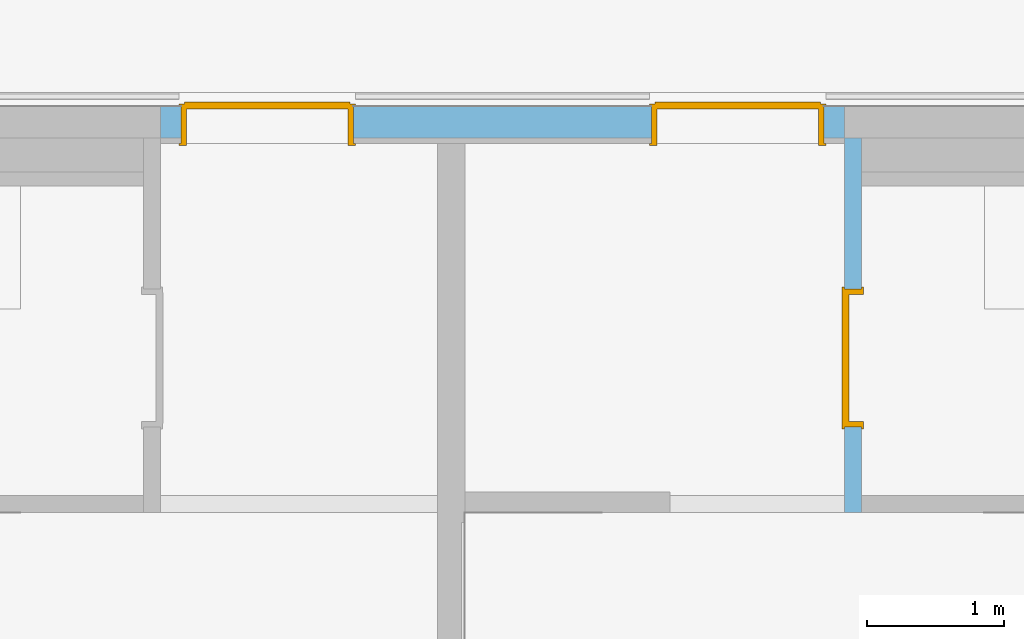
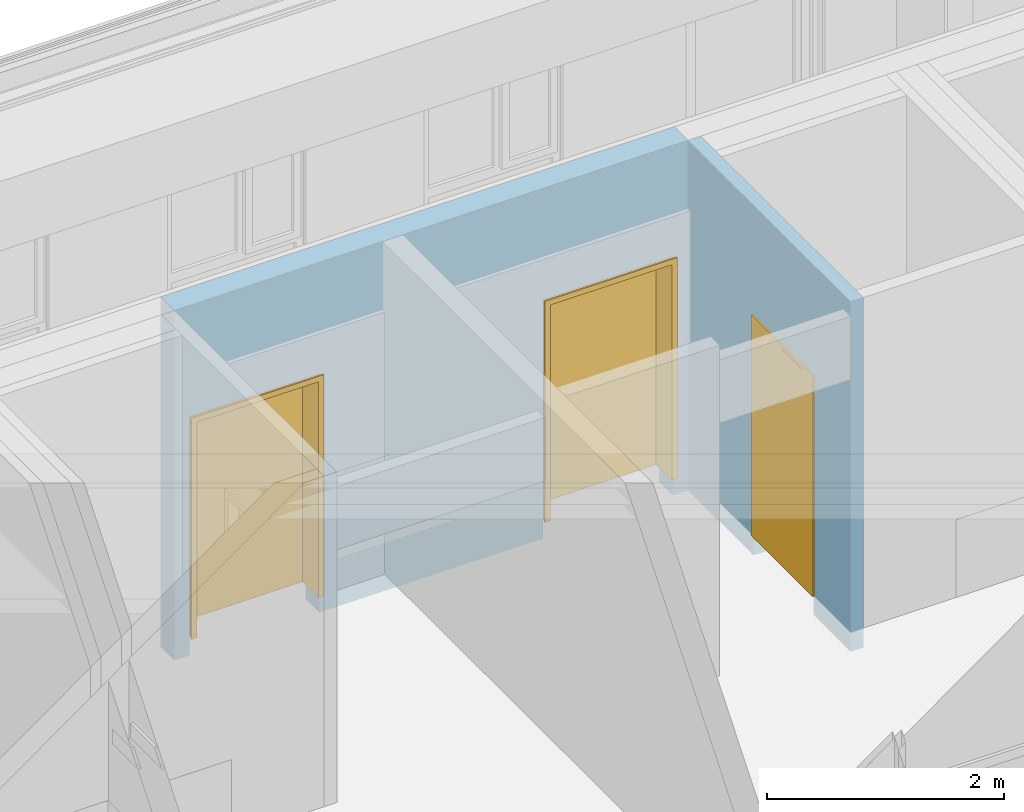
# One storey, part 72 of 207: 3 doors, 3 openings, plus 2 elements that do not belong to this part.
"""IFC4 building model written with IfcOpenShell, lengths in metres."""

from ifc_helpers import new_model, entity, si_unit, converted_unit, derived_unit, frame, frame_2d, origin, origin_with_axes, place, context, subcontext, project, spatial, polyline, rectangle, outline, extrude, faceted_brep, source, transform, mapped, material, type_object, element, fill, save


model = new_model("IFC4")

# Units and contexts
model_context = context("Model", 3, precision=1e-05, world=origin())
body_context = subcontext(model_context, "Body", "Model", "MODEL_VIEW")
ifc_project = project(units=[si_unit("LENGTHUNIT", "METRE"), si_unit("AREAUNIT", "SQUARE_METRE"), si_unit("VOLUMEUNIT", "CUBIC_METRE"), si_unit("MASSUNIT", "GRAM", prefix="KILO"), converted_unit("PLANEANGLEUNIT", "DEGREE", entity("IfcPlaneAngleMeasure", 0.0174532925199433), si_unit("PLANEANGLEUNIT", "RADIAN"), dimensions=[0, 0, 0, 0, 0, 0, 0]), derived_unit("THERMALTRANSMITTANCEUNIT", [(si_unit("POWERUNIT", "WATT"), 1), (si_unit("THERMODYNAMICTEMPERATUREUNIT", "KELVIN"), -1), (si_unit("LENGTHUNIT", "METRE"), -2)]), derived_unit("VOLUMETRICFLOWRATEUNIT", [(si_unit("LENGTHUNIT", "METRE"), 3), (converted_unit("TIMEUNIT", "hour", entity("IfcTimeMeasure", 3600.0), si_unit("TIMEUNIT", "SECOND"), dimensions=[0, 0, 1, 0, 0, 0, 0]), -1), (si_unit("LENGTHUNIT", "METRE"), -1)])], contexts=[model_context])

# Site, building, storey
site_placement = place(None, origin())
site = spatial("IfcSite", under=ifc_project, at=site_placement, Name="Psychiatrie Neubau Wunstorf", CompositionType="ELEMENT")
building_placement = place(site_placement, origin())
building = spatial("IfcBuilding", under=site, at=building_placement, Name="Neubau H2 Stationsgebäude", CompositionType="ELEMENT")
storey_placement = place(building_placement, frame((0.0, 0.0, -0.2)))
storey = spatial("IfcBuildingStorey", under=building, at=storey_placement, Name="H2 Ebene 0", CompositionType="ELEMENT", Elevation=-0.2)

# Wall, openings, doors
ifc_material_1 = material(Name="WI-HW 60")
wall_1_placement = place(storey_placement, frame((22.875, 4.33074963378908, 0.0), z_axis=(0.0, 0.0, 1.0), x_axis=(-1.0, -7.27595761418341e-16, 0.0)))
wall_1 = element("IfcWall", 1, at=wall_1_placement, inside=storey, material=ifc_material_1, context=body_context, shape_type="SweptSolid", body=[
    extrude(rectangle(XDim=5.00000000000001, YDim=0.232000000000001, at=frame_2d((2.50000000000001, 0.116), x_axis=(1.0, 0.0))), origin_with_axes(), (0.0, 0.0, 1.0), 3.6),
])
opening_1_placement = place(wall_1_placement, frame((3.59000000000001, 0.0, 0.0), z_axis=(0.0, 1.0, 0.0), x_axis=(0.0, 0.0, 1.0)))
opening_1 = element("IfcOpeningElement", 2, at=opening_1_placement, cuts=wall_1, Name="Türöffnung", ObjectType="Opening", context=body_context, shape_type="SweptSolid", body=[
    extrude(outline(polyline([(2.46, 1.26), (2.46, 0.0), (0.0, 0.0), (0.0, 1.26), (2.46, 1.26)])), origin_with_axes(), (0.0, 0.0, 1.0), 0.232000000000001),
])
opening_2_placement = place(wall_1_placement, frame((0.150000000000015, 0.0, 0.0), z_axis=(7.35044209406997e-16, 1.0, 0.0), x_axis=(0.0, 0.0, 1.0)))
opening_2 = element("IfcOpeningElement", 3, at=opening_2_placement, cuts=wall_1, Name="Türöffnung", ObjectType="Opening", context=body_context, shape_type="SweptSolid", body=[
    extrude(outline(polyline([(2.46, 1.26), (2.46, 0.0), (0.0, 0.0), (0.0, 1.26), (2.46, 1.26)])), origin_with_axes(), (0.0, 0.0, 1.0), 0.232000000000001),
])
ifc_material_2 = material(Name="TI-2F-UZ-D")
door_type_1 = type_object("IfcDoorType", Name="SMT", OperationType="DOUBLE_DOOR_SINGLE_SWING", ParameterTakesPrecedence=False, PredefinedType="DOOR")
shared_shape_1 = source(origin_with_axes(), body_context, "Body", "Brep", [
    faceted_brep([(1.26, -0.0150000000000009, 2.46), (1.26, -0.0150000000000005, 0.2), (1.22, -0.0150000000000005, 0.2), (1.22, -0.0150000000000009, 2.46), (1.26, 0.2865, 0.2), (1.26, 0.2865, 2.46), (1.22, 0.2865, 2.46), (1.22, 0.2865, 0.2)], [[[0, 1, 2, 3]], [[4, 5, 6, 7]], [[1, 0, 5, 4]], [[2, 1, 4, 7]], [[3, 2, 7, 6]], [[0, 3, 6, 5]]], orient=[[False], [False], [False], [False], [False], [False]]),
    faceted_brep([(1.26, -0.0150000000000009, 2.475), (1.275, -0.0150000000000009, 2.475), (1.275, -0.0150000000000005, 0.2), (1.26, -0.0150000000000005, 0.2), (1.26, 0.0, 0.2), (1.275, 0.0, 0.2), (1.275, 0.0, 2.475), (1.26, 0.0, 2.475)], [[[0, 1, 2, 3]], [[4, 5, 6, 7]], [[3, 4, 7, 0]], [[2, 5, 4, 3]], [[1, 6, 5, 2]], [[0, 7, 6, 1]]], orient=[[False], [False], [False], [False], [False], [False]]),
    faceted_brep([(1.26, 0.2715, 2.475), (1.275, 0.2715, 2.475), (1.275, 0.2715, 0.2), (1.26, 0.2715, 0.2), (1.26, 0.2865, 0.2), (1.275, 0.2865, 0.2), (1.275, 0.2865, 2.475), (1.26, 0.2865, 2.475)], [[[0, 1, 2, 3]], [[4, 5, 6, 7]], [[3, 4, 7, 0]], [[2, 5, 4, 3]], [[1, 6, 5, 2]], [[0, 7, 6, 1]]], orient=[[False], [False], [False], [False], [False], [False]]),
    faceted_brep([(0.04, -0.0150000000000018, 2.46), (0.04, -0.0150000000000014, 0.2), (0.0, -0.0150000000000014, 0.2), (0.0, -0.0150000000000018, 2.46), (0.04, 0.286499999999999, 0.2), (0.04, 0.286499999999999, 2.46), (0.0, 0.286499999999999, 2.46), (0.0, 0.286499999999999, 0.2)], [[[0, 1, 2, 3]], [[4, 5, 6, 7]], [[1, 0, 5, 4]], [[2, 1, 4, 7]], [[3, 2, 7, 6]], [[0, 3, 6, 5]]], orient=[[False], [False], [False], [False], [False], [False]]),
    faceted_brep([(0.0, -0.0150000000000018, 2.475), (0.0, -0.0150000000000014, 0.2), (-0.015, -0.0150000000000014, 0.2), (-0.015, -0.0150000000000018, 2.475), (0.0, 0.0, 0.2), (0.0, 0.0, 2.475), (-0.015, 0.0, 2.475), (-0.015, 0.0, 0.2)], [[[0, 1, 2, 3]], [[4, 5, 6, 7]], [[1, 0, 5, 4]], [[2, 1, 4, 7]], [[3, 2, 7, 6]], [[0, 3, 6, 5]]], orient=[[False], [False], [False], [False], [False], [False]]),
    faceted_brep([(0.0, 0.271499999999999, 2.475), (0.0, 0.271499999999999, 0.2), (-0.015, 0.271499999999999, 0.2), (-0.015, 0.271499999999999, 2.475), (0.0, 0.286499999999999, 0.2), (0.0, 0.286499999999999, 2.475), (-0.015, 0.286499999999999, 2.475), (-0.015, 0.286499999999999, 0.2)], [[[0, 1, 2, 3]], [[4, 5, 6, 7]], [[1, 0, 5, 4]], [[2, 1, 4, 7]], [[3, 2, 7, 6]], [[0, 3, 6, 5]]], orient=[[False], [False], [False], [False], [False], [False]]),
    faceted_brep([(1.22, -0.0150000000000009, 2.46), (1.22, -0.0150000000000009, 2.42), (0.04, -0.0150000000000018, 2.42), (0.04, -0.0150000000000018, 2.46), (1.22, 0.2865, 2.42), (1.22, 0.2865, 2.46), (0.04, 0.286499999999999, 2.46), (0.04, 0.286499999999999, 2.42)], [[[0, 1, 2, 3]], [[4, 5, 6, 7]], [[1, 0, 5, 4]], [[2, 1, 4, 7]], [[3, 2, 7, 6]], [[0, 3, 6, 5]]], orient=[[False], [False], [False], [False], [False], [False]]),
    faceted_brep([(1.26, -0.0150000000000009, 2.475), (1.26, -0.0150000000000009, 2.46), (0.0, -0.0150000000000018, 2.46), (0.0, -0.0150000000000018, 2.475), (1.26, 0.0, 2.46), (1.26, 0.0, 2.475), (0.0, 0.0, 2.475), (0.0, 0.0, 2.46)], [[[0, 1, 2, 3]], [[4, 5, 6, 7]], [[1, 0, 5, 4]], [[2, 1, 4, 7]], [[3, 2, 7, 6]], [[0, 3, 6, 5]]], orient=[[False], [False], [False], [False], [False], [False]]),
    faceted_brep([(1.26, 0.2715, 2.475), (1.26, 0.2715, 2.46), (0.0, 0.271499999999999, 2.46), (0.0, 0.271499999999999, 2.475), (1.26, 0.2865, 2.46), (1.26, 0.2865, 2.475), (0.0, 0.286499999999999, 2.475), (0.0, 0.286499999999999, 2.46)], [[[0, 1, 2, 3]], [[4, 5, 6, 7]], [[1, 0, 5, 4]], [[2, 1, 4, 7]], [[3, 2, 7, 6]], [[0, 3, 6, 5]]], orient=[[False], [False], [False], [False], [False], [False]]),
    faceted_brep([(1.235, 0.2515, 2.435), (1.235, 0.2515, 0.2), (0.335, 0.2515, 0.2), (0.335, 0.2515, 2.435), (1.235, 0.3015, 0.2), (1.235, 0.3015, 2.435), (0.335, 0.3015, 2.435), (0.335, 0.3015, 0.2)], [[[0, 1, 2, 3]], [[4, 5, 6, 7]], [[1, 0, 5, 4]], [[2, 1, 4, 7]], [[3, 2, 7, 6]], [[0, 3, 6, 5]]], orient=[[False], [False], [False], [False], [False], [False]]),
    faceted_brep([(0.334, 0.2515, 2.435), (0.334, 0.2515, 0.2), (0.025, 0.251499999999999, 0.2), (0.025, 0.251499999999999, 2.435), (0.334, 0.3015, 0.2), (0.334, 0.3015, 2.435), (0.025, 0.301499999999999, 2.435), (0.025, 0.301499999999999, 0.2)], [[[0, 1, 2, 3]], [[4, 5, 6, 7]], [[1, 0, 5, 4]], [[2, 1, 4, 7]], [[3, 2, 7, 6]], [[0, 3, 6, 5]]], orient=[[False], [False], [False], [False], [False], [False]]),
])
door_1_placement = place(opening_1_placement, frame((0.0, 1.26, 0.271499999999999), z_axis=(1.0, 0.0, 0.0), x_axis=(0.0, -1.0, 1.44941695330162e-15)))
door_1 = element("IfcDoor", 4, at=door_1_placement, inside=storey, type_object=door_type_1, material=ifc_material_2, Name="SMT", OverallHeight=2.46, OverallWidth=1.26, context=body_context, shape_type="MappedRepresentation", body=[
    mapped(shared_shape_1, transform((0.0, 0.0, 0.0), x_axis=(1.0, 0.0, 0.0), y_axis=(0.0, 1.0, 0.0), z_axis=(0.0, 0.0, 1.0), scale=1.0)),
])
fill(opening_1, door_1)
ifc_material_3 = material(Name="TI-2F-UZ-D")
door_type_2 = type_object("IfcDoorType", Name="SMT", OperationType="DOUBLE_DOOR_SINGLE_SWING", ParameterTakesPrecedence=False, PredefinedType="DOOR")
shared_shape_2 = source(origin_with_axes(), body_context, "Body", "Brep", [
    faceted_brep([(0.0, -0.0150000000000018, 2.46), (0.04, -0.0150000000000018, 2.46), (0.04, -0.0150000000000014, 0.2), (0.0, -0.0150000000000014, 0.2), (0.0, 0.2865, 0.2), (0.04, 0.2865, 0.2), (0.04, 0.2865, 2.46), (0.0, 0.2865, 2.46)], [[[0, 1, 2, 3]], [[4, 5, 6, 7]], [[3, 4, 7, 0]], [[2, 5, 4, 3]], [[1, 6, 5, 2]], [[0, 7, 6, 1]]], orient=[[False], [False], [False], [False], [False], [False]]),
    faceted_brep([(0.0, -0.0150000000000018, 2.475), (0.0, -0.0150000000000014, 0.2), (-0.015, -0.0150000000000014, 0.2), (-0.015, -0.0150000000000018, 2.475), (0.0, 0.0, 0.2), (0.0, 0.0, 2.475), (-0.015, 0.0, 2.475), (-0.015, 0.0, 0.2)], [[[0, 1, 2, 3]], [[4, 5, 6, 7]], [[1, 0, 5, 4]], [[2, 1, 4, 7]], [[3, 2, 7, 6]], [[0, 3, 6, 5]]], orient=[[False], [False], [False], [False], [False], [False]]),
    faceted_brep([(0.0, 0.2715, 2.475), (0.0, 0.2715, 0.2), (-0.015, 0.2715, 0.2), (-0.015, 0.2715, 2.475), (0.0, 0.2865, 0.2), (0.0, 0.2865, 2.475), (-0.015, 0.2865, 2.475), (-0.015, 0.2865, 0.2)], [[[0, 1, 2, 3]], [[4, 5, 6, 7]], [[1, 0, 5, 4]], [[2, 1, 4, 7]], [[3, 2, 7, 6]], [[0, 3, 6, 5]]], orient=[[False], [False], [False], [False], [False], [False]]),
    faceted_brep([(1.22, -0.0150000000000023, 2.46), (1.26, -0.0150000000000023, 2.46), (1.26, -0.0150000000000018, 0.2), (1.22, -0.0150000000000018, 0.2), (1.22, 0.2865, 0.2), (1.26, 0.2865, 0.2), (1.26, 0.2865, 2.46), (1.22, 0.2865, 2.46)], [[[0, 1, 2, 3]], [[4, 5, 6, 7]], [[3, 4, 7, 0]], [[2, 5, 4, 3]], [[1, 6, 5, 2]], [[0, 7, 6, 1]]], orient=[[False], [False], [False], [False], [False], [False]]),
    faceted_brep([(1.26, -0.0150000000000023, 2.475), (1.275, -0.0150000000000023, 2.475), (1.275, -0.0150000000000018, 0.2), (1.26, -0.0150000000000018, 0.2), (1.26, 0.0, 0.2), (1.275, 0.0, 0.2), (1.275, 0.0, 2.475), (1.26, 0.0, 2.475)], [[[0, 1, 2, 3]], [[4, 5, 6, 7]], [[3, 4, 7, 0]], [[2, 5, 4, 3]], [[1, 6, 5, 2]], [[0, 7, 6, 1]]], orient=[[False], [False], [False], [False], [False], [False]]),
    faceted_brep([(1.26, 0.271499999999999, 2.475), (1.275, 0.271499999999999, 2.475), (1.275, 0.2715, 0.2), (1.26, 0.2715, 0.2), (1.26, 0.2865, 0.2), (1.275, 0.2865, 0.2), (1.275, 0.2865, 2.475), (1.26, 0.2865, 2.475)], [[[0, 1, 2, 3]], [[4, 5, 6, 7]], [[3, 4, 7, 0]], [[2, 5, 4, 3]], [[1, 6, 5, 2]], [[0, 7, 6, 1]]], orient=[[False], [False], [False], [False], [False], [False]]),
    faceted_brep([(0.04, -0.0150000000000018, 2.46), (1.22, -0.0150000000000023, 2.46), (1.22, -0.0150000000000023, 2.42), (0.04, -0.0150000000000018, 2.42), (0.04, 0.2865, 2.42), (1.22, 0.2865, 2.42), (1.22, 0.2865, 2.46), (0.04, 0.2865, 2.46)], [[[0, 1, 2, 3]], [[4, 5, 6, 7]], [[3, 4, 7, 0]], [[2, 5, 4, 3]], [[1, 6, 5, 2]], [[0, 7, 6, 1]]], orient=[[False], [False], [False], [False], [False], [False]]),
    faceted_brep([(0.0, -0.0150000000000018, 2.475), (1.26, -0.0150000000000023, 2.475), (1.26, -0.0150000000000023, 2.46), (0.0, -0.0150000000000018, 2.46), (0.0, 0.0, 2.46), (1.26, 0.0, 2.46), (1.26, 0.0, 2.475), (0.0, 0.0, 2.475)], [[[0, 1, 2, 3]], [[4, 5, 6, 7]], [[3, 4, 7, 0]], [[2, 5, 4, 3]], [[1, 6, 5, 2]], [[0, 7, 6, 1]]], orient=[[False], [False], [False], [False], [False], [False]]),
    faceted_brep([(0.0, 0.2715, 2.475), (1.26, 0.271499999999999, 2.475), (1.26, 0.271499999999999, 2.46), (0.0, 0.2715, 2.46), (0.0, 0.2865, 2.46), (1.26, 0.2865, 2.46), (1.26, 0.2865, 2.475), (0.0, 0.2865, 2.475)], [[[0, 1, 2, 3]], [[4, 5, 6, 7]], [[3, 4, 7, 0]], [[2, 5, 4, 3]], [[1, 6, 5, 2]], [[0, 7, 6, 1]]], orient=[[False], [False], [False], [False], [False], [False]]),
    faceted_brep([(0.025, 0.2515, 2.435), (0.925, 0.251499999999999, 2.435), (0.925, 0.2515, 0.2), (0.025, 0.2515, 0.2), (0.025, 0.3015, 0.2), (0.925, 0.3015, 0.2), (0.925, 0.3015, 2.435), (0.025, 0.3015, 2.435)], [[[0, 1, 2, 3]], [[4, 5, 6, 7]], [[3, 4, 7, 0]], [[2, 5, 4, 3]], [[1, 6, 5, 2]], [[0, 7, 6, 1]]], orient=[[False], [False], [False], [False], [False], [False]]),
    faceted_brep([(0.926, 0.251499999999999, 2.435), (1.235, 0.251499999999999, 2.435), (1.235, 0.2515, 0.2), (0.926, 0.2515, 0.2), (0.926, 0.3015, 0.2), (1.235, 0.3015, 0.2), (1.235, 0.3015, 2.435), (0.926, 0.3015, 2.435)], [[[0, 1, 2, 3]], [[4, 5, 6, 7]], [[3, 4, 7, 0]], [[2, 5, 4, 3]], [[1, 6, 5, 2]], [[0, 7, 6, 1]]], orient=[[False], [False], [False], [False], [False], [False]]),
])
door_2_placement = place(opening_2_placement, frame((0.0, 1.26, 0.2715), z_axis=(1.0, 0.0, 0.0), x_axis=(0.0, -1.0, -7.44844798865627e-18)))
door_2 = element("IfcDoor", 5, at=door_2_placement, inside=storey, type_object=door_type_2, material=ifc_material_3, Name="SMT", OverallHeight=2.46, OverallWidth=1.26, context=body_context, shape_type="MappedRepresentation", body=[
    mapped(shared_shape_2, transform((0.0, 0.0, 0.0), x_axis=(1.0, 0.0, 0.0), y_axis=(0.0, 1.0, 0.0), z_axis=(0.0, 0.0, 1.0), scale=1.0)),
])
fill(opening_2, door_2)

# Wall, opening, door
ifc_material_4 = material(Name="WI-LB")
wall_2_placement = place(storey_placement, frame((22.875, 4.09874963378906, 0.0), z_axis=(0.0, 0.0, 1.0), x_axis=(0.0, -1.0, 0.0)))
wall_2 = element("IfcWall", 6, at=wall_2_placement, inside=storey, material=ifc_material_4, context=body_context, shape_type="SweptSolid", body=[
    extrude(rectangle(XDim=2.74, YDim=0.125, at=frame_2d((1.37, 0.0625), x_axis=(1.0, 0.0))), origin_with_axes(), (0.0, 0.0, 1.0), 3.6),
])
opening_3_placement = place(wall_2_placement, frame((2.115, 0.125, 0.0), z_axis=(0.0, -1.0, 0.0), x_axis=(0.0, 0.0, 1.0)))
opening_3 = element("IfcOpeningElement", 7, at=opening_3_placement, cuts=wall_2, Name="Türöffnung", ObjectType="Opening", context=body_context, shape_type="SweptSolid", body=[
    extrude(outline(polyline([(2.46, 1.01), (2.46, 0.0), (0.0, 0.0), (0.0, 1.01), (2.46, 1.01)])), origin_with_axes(), (0.0, 0.0, 1.0), 0.125),
])
ifc_material_5 = material(Name="TI-1F-UZ-D-N")
door_type_3 = type_object("IfcDoorType", Name="SMT", OperationType="SINGLE_SWING_RIGHT", ParameterTakesPrecedence=False, PredefinedType="DOOR")
shared_shape_3 = source(origin_with_axes(), body_context, "Body", "Brep", [
    faceted_brep([(-0.0400000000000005, 0.0125000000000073, 0.0), (0.0, 0.0125000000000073, 0.0), (0.0, 0.112500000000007, 0.0), (-0.0400000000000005, 0.112500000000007, 0.0), (-0.0400000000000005, 0.112500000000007, 3.6), (0.0, 0.112500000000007, 3.6), (0.0, 0.0125000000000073, 3.6), (-0.0400000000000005, 0.0125000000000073, 3.6)], [[[0, 1, 2, 3]], [[4, 5, 6, 7]], [[3, 4, 7, 0]], [[2, 5, 4, 3]], [[1, 6, 5, 2]], [[0, 7, 6, 1]]], orient=[[False], [False], [False], [False], [False], [False]]),
    faceted_brep([(1.01, 0.0125000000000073, 0.0), (1.05, 0.0125000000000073, 0.0), (1.05, 0.112500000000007, 0.0), (1.01, 0.112500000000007, 0.0), (1.01, 0.112500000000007, 3.6), (1.05, 0.112500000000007, 3.6), (1.05, 0.0125000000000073, 3.6), (1.01, 0.0125000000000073, 3.6)], [[[0, 1, 2, 3]], [[4, 5, 6, 7]], [[3, 4, 7, 0]], [[2, 5, 4, 3]], [[1, 6, 5, 2]], [[0, 7, 6, 1]]], orient=[[False], [False], [False], [False], [False], [False]]),
    faceted_brep([(0.0, 0.0125000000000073, 2.46), (1.01, 0.0125000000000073, 2.46), (1.01, 0.112500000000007, 2.46), (0.0, 0.112500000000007, 2.46), (0.0, 0.112500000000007, 2.5), (1.01, 0.112500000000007, 2.5), (1.01, 0.0125000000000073, 2.5), (0.0, 0.0125000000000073, 2.5)], [[[0, 1, 2, 3]], [[4, 5, 6, 7]], [[3, 4, 7, 0]], [[2, 5, 4, 3]], [[1, 6, 5, 2]], [[0, 7, 6, 1]]], orient=[[False], [False], [False], [False], [False], [False]]),
])
shared_shape_4 = source(origin_with_axes(), body_context, "Body", "Brep", [
    faceted_brep([(1.01, -0.0149999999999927, 2.46), (1.01, -0.0149999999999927, 0.2), (0.969999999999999, -0.0149999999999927, 0.2), (0.969999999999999, -0.0149999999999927, 2.46), (1.01, 0.140000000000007, 0.2), (1.01, 0.140000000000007, 2.46), (0.969999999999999, 0.140000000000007, 2.46), (0.969999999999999, 0.140000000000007, 0.2)], [[[0, 1, 2, 3]], [[4, 5, 6, 7]], [[1, 0, 5, 4]], [[2, 1, 4, 7]], [[3, 2, 7, 6]], [[0, 3, 6, 5]]], orient=[[False], [False], [False], [False], [False], [False]]),
    faceted_brep([(1.01, -0.0149999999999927, 2.475), (1.025, -0.0149999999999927, 2.475), (1.025, -0.0149999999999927, 0.2), (1.01, -0.0149999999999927, 0.2), (1.01, 0.0, 0.2), (1.025, 0.0, 0.2), (1.025, 0.0, 2.475), (1.01, 0.0, 2.475)], [[[0, 1, 2, 3]], [[4, 5, 6, 7]], [[3, 4, 7, 0]], [[2, 5, 4, 3]], [[1, 6, 5, 2]], [[0, 7, 6, 1]]], orient=[[False], [False], [False], [False], [False], [False]]),
    faceted_brep([(1.01, 0.125000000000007, 2.475), (1.025, 0.125000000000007, 2.475), (1.025, 0.125000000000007, 0.2), (1.01, 0.125000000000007, 0.2), (1.01, 0.140000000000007, 0.2), (1.025, 0.140000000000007, 0.2), (1.025, 0.140000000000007, 2.475), (1.01, 0.140000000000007, 2.475)], [[[0, 1, 2, 3]], [[4, 5, 6, 7]], [[3, 4, 7, 0]], [[2, 5, 4, 3]], [[1, 6, 5, 2]], [[0, 7, 6, 1]]], orient=[[False], [False], [False], [False], [False], [False]]),
    faceted_brep([(0.0399999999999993, -0.0149999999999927, 2.46), (0.0399999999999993, -0.0149999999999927, 0.2), (0.0, -0.0149999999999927, 0.2), (0.0, -0.0149999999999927, 2.46), (0.0399999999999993, 0.140000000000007, 0.2), (0.0399999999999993, 0.140000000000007, 2.46), (0.0, 0.140000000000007, 2.46), (0.0, 0.140000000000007, 0.2)], [[[0, 1, 2, 3]], [[4, 5, 6, 7]], [[1, 0, 5, 4]], [[2, 1, 4, 7]], [[3, 2, 7, 6]], [[0, 3, 6, 5]]], orient=[[False], [False], [False], [False], [False], [False]]),
    faceted_brep([(0.0, -0.0149999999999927, 2.475), (0.0, -0.0149999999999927, 0.2), (-0.0150000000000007, -0.0149999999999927, 0.2), (-0.0150000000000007, -0.0149999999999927, 2.475), (0.0, 0.0, 0.2), (0.0, 0.0, 2.475), (-0.0150000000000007, 0.0, 2.475), (-0.0150000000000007, 0.0, 0.2)], [[[0, 1, 2, 3]], [[4, 5, 6, 7]], [[1, 0, 5, 4]], [[2, 1, 4, 7]], [[3, 2, 7, 6]], [[0, 3, 6, 5]]], orient=[[False], [False], [False], [False], [False], [False]]),
    faceted_brep([(0.0, 0.125000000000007, 2.475), (0.0, 0.125000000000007, 0.2), (-0.0150000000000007, 0.125000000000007, 0.2), (-0.0150000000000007, 0.125000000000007, 2.475), (0.0, 0.140000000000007, 0.2), (0.0, 0.140000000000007, 2.475), (-0.0150000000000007, 0.140000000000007, 2.475), (-0.0150000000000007, 0.140000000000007, 0.2)], [[[0, 1, 2, 3]], [[4, 5, 6, 7]], [[1, 0, 5, 4]], [[2, 1, 4, 7]], [[3, 2, 7, 6]], [[0, 3, 6, 5]]], orient=[[False], [False], [False], [False], [False], [False]]),
    faceted_brep([(0.969999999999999, -0.0149999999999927, 2.46), (0.969999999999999, -0.0149999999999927, 2.42), (0.0399999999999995, -0.0149999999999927, 2.42), (0.0399999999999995, -0.0149999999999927, 2.46), (0.969999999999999, 0.140000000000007, 2.42), (0.969999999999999, 0.140000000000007, 2.46), (0.0399999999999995, 0.140000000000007, 2.46), (0.0399999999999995, 0.140000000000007, 2.42)], [[[0, 1, 2, 3]], [[4, 5, 6, 7]], [[1, 0, 5, 4]], [[2, 1, 4, 7]], [[3, 2, 7, 6]], [[0, 3, 6, 5]]], orient=[[False], [False], [False], [False], [False], [False]]),
    faceted_brep([(1.01, -0.0149999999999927, 2.475), (1.01, -0.0149999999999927, 2.46), (0.0, -0.0149999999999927, 2.46), (0.0, -0.0149999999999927, 2.475), (1.01, 0.0, 2.46), (1.01, 0.0, 2.475), (0.0, 0.0, 2.475), (0.0, 0.0, 2.46)], [[[0, 1, 2, 3]], [[4, 5, 6, 7]], [[1, 0, 5, 4]], [[2, 1, 4, 7]], [[3, 2, 7, 6]], [[0, 3, 6, 5]]], orient=[[False], [False], [False], [False], [False], [False]]),
    faceted_brep([(1.01, 0.125000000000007, 2.475), (1.01, 0.125000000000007, 2.46), (0.0, 0.125000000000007, 2.46), (0.0, 0.125000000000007, 2.475), (1.01, 0.140000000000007, 2.46), (1.01, 0.140000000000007, 2.475), (0.0, 0.140000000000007, 2.475), (0.0, 0.140000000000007, 2.46)], [[[0, 1, 2, 3]], [[4, 5, 6, 7]], [[1, 0, 5, 4]], [[2, 1, 4, 7]], [[3, 2, 7, 6]], [[0, 3, 6, 5]]], orient=[[False], [False], [False], [False], [False], [False]]),
    faceted_brep([(0.984999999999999, 0.0910000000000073, 2.435), (0.984999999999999, 0.0910000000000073, 0.2), (0.0249999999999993, 0.0910000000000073, 0.2), (0.0249999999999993, 0.0910000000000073, 2.435), (0.984999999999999, 0.141000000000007, 0.2), (0.984999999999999, 0.141000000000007, 2.435), (0.0249999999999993, 0.141000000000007, 2.435), (0.0249999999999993, 0.141000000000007, 0.2)], [[[0, 1, 2, 3]], [[4, 5, 6, 7]], [[1, 0, 5, 4]], [[2, 1, 4, 7]], [[3, 2, 7, 6]], [[0, 3, 6, 5]]], orient=[[False], [False], [False], [False], [False], [False]]),
])
door_3_placement = place(opening_3_placement, frame((0.0, 0.0, 0.0), z_axis=(1.0, 0.0, 0.0), x_axis=(0.0, 1.0, 0.0)))
door_3 = element("IfcDoor", 8, at=door_3_placement, inside=storey, type_object=door_type_3, material=ifc_material_5, Name="SMT", OverallHeight=2.46, OverallWidth=1.01, context=body_context, shape_type="MappedRepresentation", body=[
    mapped(shared_shape_3, transform((0.0, 0.0, 0.0), x_axis=(1.0, 0.0, 0.0), y_axis=(0.0, 1.0, 0.0), z_axis=(0.0, 0.0, 1.0), scale=1.0)),
    mapped(shared_shape_4, transform((0.0, 0.0, 0.0), x_axis=(1.0, 0.0, 0.0), y_axis=(0.0, 1.0, 0.0), z_axis=(0.0, 0.0, 1.0), scale=1.0)),
])
fill(opening_3, door_3)

save(model, "model.ifc")
